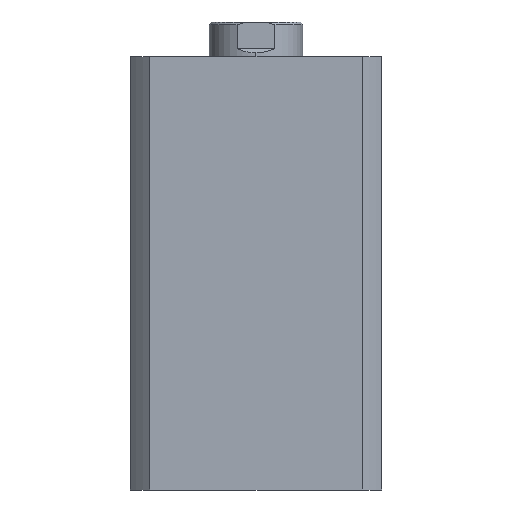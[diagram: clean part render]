
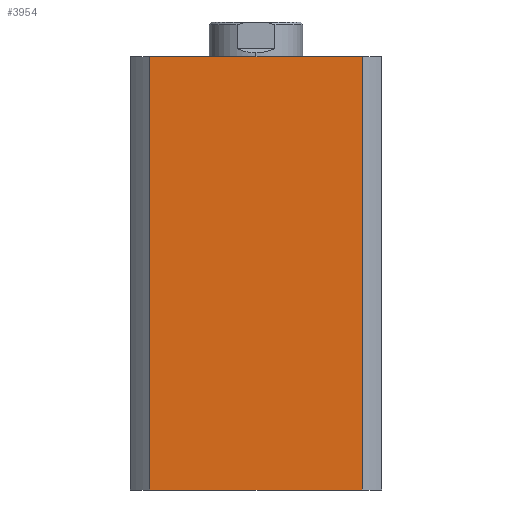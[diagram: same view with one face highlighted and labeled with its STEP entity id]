
A CAD part, left-side view. The second image highlights one B-rep face of the part: STEP entity #3954.
In plain terms, the highlighted planar face has unit normal (-1, 0, 0).
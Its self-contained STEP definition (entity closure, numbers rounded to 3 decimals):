
#88 = DIRECTION ( 'NONE',  ( 0., -1., 0. ) ) ;
#93 = CARTESIAN_POINT ( 'NONE',  ( -47., 0., 162. ) ) ;
#726 = LINE ( 'NONE', #93, #728 ) ;
#728 = VECTOR ( 'NONE', #88, 1000. ) ;
#1642 = VERTEX_POINT ( 'NONE', #4128 ) ;
#1643 = VERTEX_POINT ( 'NONE', #4127 ) ;
#1662 = VERTEX_POINT ( 'NONE', #4108 ) ;
#1663 = VERTEX_POINT ( 'NONE', #4107 ) ;
#2703 = EDGE_LOOP ( 'NONE', ( #3244, #3243, #3242, #3241 ) ) ;
#2773 = FACE_OUTER_BOUND ( 'NONE', #2703, .T. ) ;
#2980 = LINE ( 'NONE', #4698, #2986 ) ;
#2982 = LINE ( 'NONE', #4696, #2984 ) ;
#2984 = VECTOR ( 'NONE', #4689, 1000. ) ;
#2985 = LINE ( 'NONE', #4704, #2988 ) ;
#2986 = VECTOR ( 'NONE', #4703, 1000. ) ;
#2988 = VECTOR ( 'NONE', #4706, 1000. ) ;
#3241 = ORIENTED_EDGE ( 'NONE', *, *, #4873, .T. ) ;
#3242 = ORIENTED_EDGE ( 'NONE', *, *, #3521, .F. ) ;
#3243 = ORIENTED_EDGE ( 'NONE', *, *, #4875, .F. ) ;
#3244 = ORIENTED_EDGE ( 'NONE', *, *, #4874, .T. ) ;
#3521 = EDGE_CURVE ( 'NONE', #1642, #1643, #726, .T. ) ;
#3864 = CARTESIAN_POINT ( 'NONE',  ( -47., 0., 162. ) ) ;
#3869 = PLANE ( 'NONE',  #5012 ) ;
#3872 = DIRECTION ( 'NONE',  ( 1., 0., 0. ) ) ;
#3873 = DIRECTION ( 'NONE',  ( 0., 0., -1. ) ) ;
#3954 = ADVANCED_FACE ( 'NONE', ( #2773 ), #3869, .F. ) ;
#4107 = CARTESIAN_POINT ( 'NONE',  ( -47., -39.664, 0. ) ) ;
#4108 = CARTESIAN_POINT ( 'NONE',  ( -47., 39.664, 0. ) ) ;
#4127 = CARTESIAN_POINT ( 'NONE',  ( -47., -39.664, 162. ) ) ;
#4128 = CARTESIAN_POINT ( 'NONE',  ( -47., 39.664, 162. ) ) ;
#4689 = DIRECTION ( 'NONE',  ( 0., 0., -1. ) ) ;
#4696 = CARTESIAN_POINT ( 'NONE',  ( -47., 39.664, 162. ) ) ;
#4698 = CARTESIAN_POINT ( 'NONE',  ( -47., 0., 0. ) ) ;
#4703 = DIRECTION ( 'NONE',  ( 0., -1., 0. ) ) ;
#4704 = CARTESIAN_POINT ( 'NONE',  ( -47., -39.664, 162. ) ) ;
#4706 = DIRECTION ( 'NONE',  ( 0., 0., -1. ) ) ;
#4873 = EDGE_CURVE ( 'NONE', #1642, #1662, #2982, .T. ) ;
#4874 = EDGE_CURVE ( 'NONE', #1662, #1663, #2980, .T. ) ;
#4875 = EDGE_CURVE ( 'NONE', #1643, #1663, #2985, .T. ) ;
#5012 = AXIS2_PLACEMENT_3D ( 'NONE', #3864, #3872, #3873 ) ;
